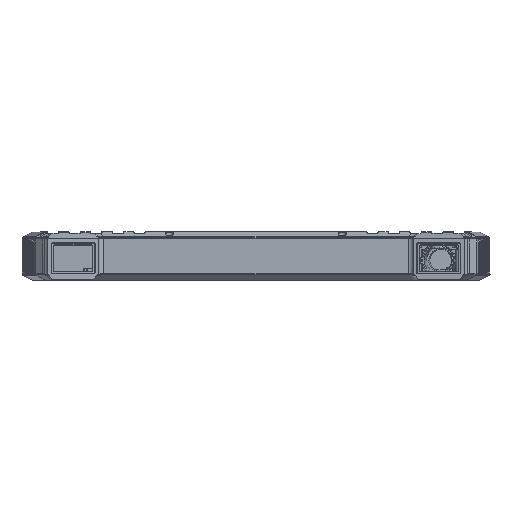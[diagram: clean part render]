
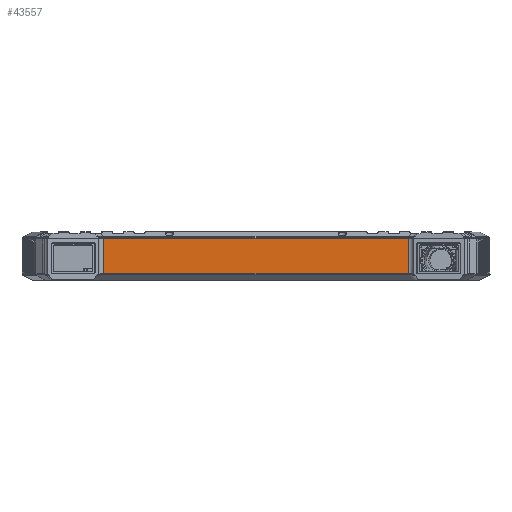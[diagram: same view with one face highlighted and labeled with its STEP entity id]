
A CAD part, top view. The second image highlights one B-rep face of the part: STEP entity #43557.
In plain terms, the highlighted planar face has unit normal (0, 0, 1).
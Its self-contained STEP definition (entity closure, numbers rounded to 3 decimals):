
#12524=CARTESIAN_POINT('',(-141.,-19.882,55.5));
#12540=DIRECTION('',(-1.,0.,0.));
#12541=VECTOR('',#12540,282.);
#12542=CARTESIAN_POINT('',(141.,12.7,55.5));
#12543=LINE('',#12542,#12541);
#12544=DIRECTION('',(0.,-1.,0.));
#12545=VECTOR('',#12544,32.582);
#12546=CARTESIAN_POINT('',(141.,12.7,55.5));
#12547=LINE('',#12546,#12545);
#12548=DIRECTION('',(-1.,0.,0.));
#12549=VECTOR('',#12548,282.);
#12550=CARTESIAN_POINT('',(141.,-19.882,
55.5));
#12551=LINE('',#12550,#12549);
#12552=DIRECTION('',(0.,-1.,0.));
#12553=VECTOR('',#12552,32.582);
#12554=CARTESIAN_POINT('',(-141.,12.7,55.5));
#12555=LINE('',#12554,#12553);
#18649=VERTEX_POINT('',#12524);
#18652=CARTESIAN_POINT('',(141.,-19.882,
55.5));
#18653=VERTEX_POINT('',#18652);
#20845=CARTESIAN_POINT('',(141.,12.7,55.5));
#20846=CARTESIAN_POINT('',(-141.,12.7,55.5));
#20847=VERTEX_POINT('',#20845);
#20848=VERTEX_POINT('',#20846);
#43544=CARTESIAN_POINT('',(146.,25.5,55.5));
#43545=DIRECTION('',(0.,0.,-1.));
#43546=DIRECTION('',(-1.,0.,0.));
#43547=AXIS2_PLACEMENT_3D('',#43544,#43545,#43546);
#43548=PLANE('',#43547);
#43549=ORIENTED_EDGE('',*,*,#22739,.F.);
#43551=ORIENTED_EDGE('',*,*,#43550,.T.);
#43553=ORIENTED_EDGE('',*,*,#43552,.T.);
#43554=ORIENTED_EDGE('',*,*,#43534,.F.);
#43555=EDGE_LOOP('',(#43549,#43551,#43553,#43554));
#43556=FACE_OUTER_BOUND('',#43555,.F.);
#22739=EDGE_CURVE('',#20847,#20848,#12543,.T.);
#43534=EDGE_CURVE('',#20848,#18649,#12555,.T.);
#43550=EDGE_CURVE('',#20847,#18653,#12547,.T.);
#43552=EDGE_CURVE('',#18653,#18649,#12551,.T.);
#43557=ADVANCED_FACE('',(#43556),#43548,.F.);
